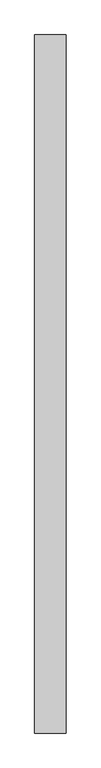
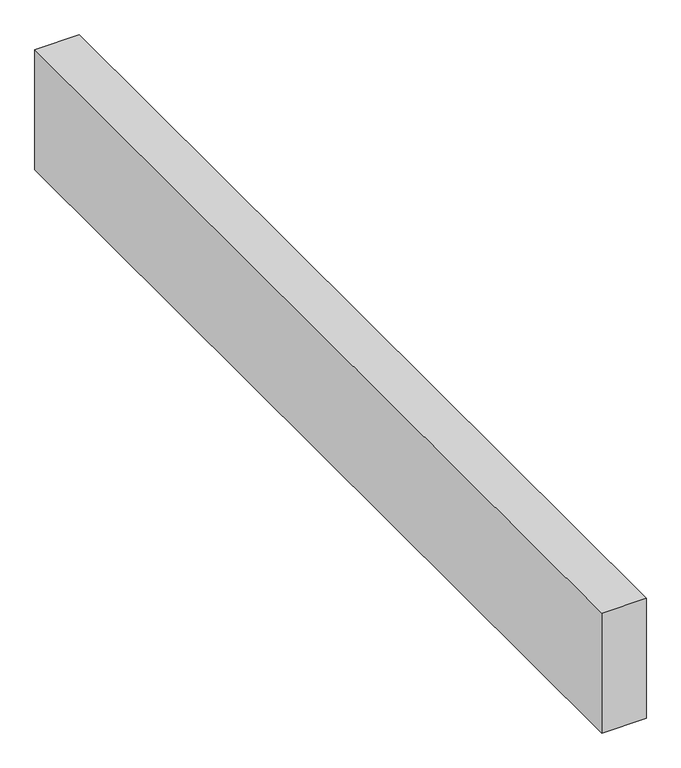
"""IFC4 building model written with IfcOpenShell, lengths in millimetres: proxy geometry."""

from ifc_helpers import new_model, si_unit, frame, origin, place, context, project, spatial, polyline, outline, extrude, source, transform, mapped, element, save


def structural_framing_08a6718a(model_context):
    return source(origin(), model_context, "Body", "SweptSolid", [
        extrude(outline(polyline([(70.0, -1549.9), (-70.0, -1549.9), (-70.0, 1549.9), (70.0, 1549.9), (70.0, -1549.9)])), frame((0.0, 0.0, -400.0), z_axis=(0.0, 0.0, 1.0), x_axis=(1.0, 0.0, 0.0)), (0.0, 0.0, 1.0), 400.0),
    ])


if __name__ == "__main__":
    model = new_model("IFC4")
    model_context = context("Model", 3, world=origin())
    ifc_project = project(units=[si_unit("LENGTHUNIT", "METRE", prefix="MILLI")], contexts=[model_context])
    site = spatial("IfcSite", under=ifc_project)
    building = spatial("IfcBuilding", under=site)
    placement = place(None, origin())
    structural_framing_shape = structural_framing_08a6718a(model_context)
    element("IfcBuildingElementProxy", 1, Name="Structural Framing", at=placement, inside=building, context=model_context, shape_type="MappedRepresentation", body=[
        mapped(structural_framing_shape, transform((0.0, 0.0, 0.0), x_axis=(1.0, 0.0, 0.0), y_axis=(0.0, 1.0, 0.0), z_axis=(0.0, 0.0, 1.0))),
    ])
    save(model, "model.ifc")
